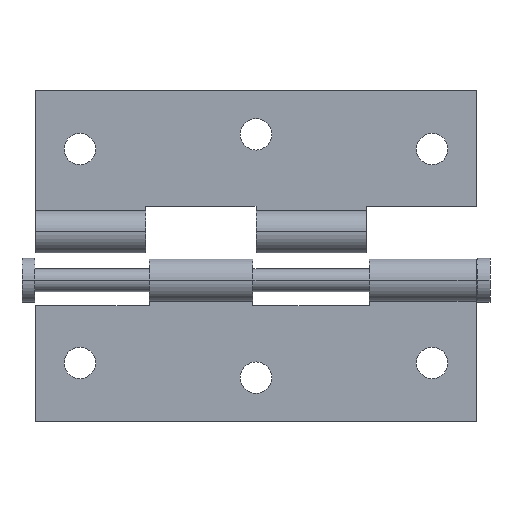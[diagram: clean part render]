
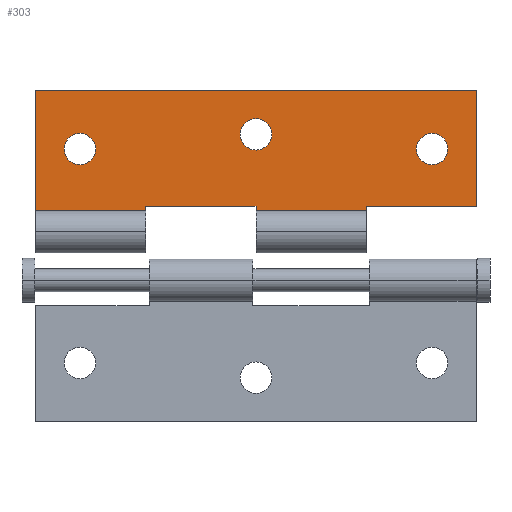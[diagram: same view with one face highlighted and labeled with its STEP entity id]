
A CAD part, top view. The second image highlights one B-rep face of the part: STEP entity #303.
In plain terms, the highlighted planar face has unit normal (0, 0, 1).
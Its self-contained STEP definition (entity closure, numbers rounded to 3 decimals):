
#10 = ORIENTED_EDGE ( 'NONE', *, *, #1867, .T. ) ;
#35 = AXIS2_PLACEMENT_3D ( 'NONE', #1848, #1709, #445 ) ;
#48 = LINE ( 'NONE', #201, #121 ) ;
#58 = EDGE_LOOP ( 'NONE', ( #1331, #2050 ) ) ;
#73 = LINE ( 'NONE', #879, #1916 ) ;
#81 = ORIENTED_EDGE ( 'NONE', *, *, #268, .F. ) ;
#87 = ORIENTED_EDGE ( 'NONE', *, *, #312, .T. ) ;
#109 = DIRECTION ( 'NONE',  ( 0., 1., 0. ) ) ;
#121 = VECTOR ( 'NONE', #361, 1000. ) ;
#192 = EDGE_CURVE ( 'NONE', #705, #1397, #669, .T. ) ;
#198 = CARTESIAN_POINT ( 'NONE',  ( 30.5, 17., 1.2 ) ) ;
#201 = CARTESIAN_POINT ( 'NONE',  ( -35., 7.031, 1.2 ) ) ;
#208 = PLANE ( 'NONE',  #227 ) ;
#210 = ORIENTED_EDGE ( 'NONE', *, *, #1632, .T. ) ;
#216 = EDGE_CURVE ( 'NONE', #262, #1350, #497, .T. ) ;
#227 = AXIS2_PLACEMENT_3D ( 'NONE', #1318, #372, #570 ) ;
#241 = LINE ( 'NONE', #1344, #688 ) ;
#246 = DIRECTION ( 'NONE',  ( 0., 0., 1. ) ) ;
#259 = VERTEX_POINT ( 'NONE', #1523 ) ;
#260 = CARTESIAN_POINT ( 'NONE',  ( -17.5, 7.031, 1.2 ) ) ;
#262 = VERTEX_POINT ( 'NONE', #1213 ) ;
#268 = EDGE_CURVE ( 'NONE', #681, #1469, #73, .T. ) ;
#279 = DIRECTION ( 'NONE',  ( 0., 0., 1. ) ) ;
#290 = CARTESIAN_POINT ( 'NONE',  ( -35., 7.031, 1.2 ) ) ;
#296 = CIRCLE ( 'NONE', #1347, 2.5 ) ;
#298 = FACE_BOUND ( 'NONE', #905, .T. ) ;
#303 = ADVANCED_FACE ( 'NONE', ( #1147, #298, #1721, #1814 ), #208, .F. ) ;
#312 = EDGE_CURVE ( 'NONE', #1131, #1350, #1483, .T. ) ;
#332 = AXIS2_PLACEMENT_3D ( 'NONE', #587, #279, #1066 ) ;
#337 = EDGE_CURVE ( 'NONE', #488, #547, #568, .T. ) ;
#338 = ORIENTED_EDGE ( 'NONE', *, *, #216, .F. ) ;
#353 = DIRECTION ( 'NONE',  ( 0., 0., 1. ) ) ;
#360 = ORIENTED_EDGE ( 'NONE', *, *, #192, .F. ) ;
#361 = DIRECTION ( 'NONE',  ( 0., 1., 0. ) ) ;
#369 = CIRCLE ( 'NONE', #35, 2.5 ) ;
#372 = DIRECTION ( 'NONE',  ( 0., 0., -1. ) ) ;
#396 = DIRECTION ( 'NONE',  ( -1., 0., 0. ) ) ;
#414 = VERTEX_POINT ( 'NONE', #1599 ) ;
#445 = DIRECTION ( 'NONE',  ( -1., 0., 0. ) ) ;
#464 = DIRECTION ( 'NONE',  ( -1., 0., 0. ) ) ;
#488 = VERTEX_POINT ( 'NONE', #198 ) ;
#491 = ORIENTED_EDGE ( 'NONE', *, *, #1024, .F. ) ;
#497 = LINE ( 'NONE', #1710, #1564 ) ;
#506 = VERTEX_POINT ( 'NONE', #1939 ) ;
#547 = VERTEX_POINT ( 'NONE', #976 ) ;
#563 = EDGE_CURVE ( 'NONE', #414, #2000, #1594, .T. ) ;
#568 = CIRCLE ( 'NONE', #1371, 2.5 ) ;
#570 = DIRECTION ( 'NONE',  ( 0., -1., 0. ) ) ;
#587 = CARTESIAN_POINT ( 'NONE',  ( -28., 17., 1.2 ) ) ;
#602 = CARTESIAN_POINT ( 'NONE',  ( -30.5, 17., 1.2 ) ) ;
#630 = CARTESIAN_POINT ( 'NONE',  ( 35., 7.931, 1.2 ) ) ;
#669 = CIRCLE ( 'NONE', #1196, 2.5 ) ;
#679 = EDGE_CURVE ( 'NONE', #262, #844, #1641, .T. ) ;
#681 = VERTEX_POINT ( 'NONE', #260 ) ;
#688 = VECTOR ( 'NONE', #1487, 1000. ) ;
#689 = DIRECTION ( 'NONE',  ( 1., 0., 0. ) ) ;
#705 = VERTEX_POINT ( 'NONE', #721 ) ;
#714 = DIRECTION ( 'NONE',  ( 0., 0., 1. ) ) ;
#721 = CARTESIAN_POINT ( 'NONE',  ( -25.5, 17., 1.2 ) ) ;
#769 = CARTESIAN_POINT ( 'NONE',  ( 17.5, 7.931, 1.2 ) ) ;
#795 = EDGE_CURVE ( 'NONE', #906, #414, #1412, .T. ) ;
#814 = VECTOR ( 'NONE', #1976, 1000. ) ;
#844 = VERTEX_POINT ( 'NONE', #769 ) ;
#854 = AXIS2_PLACEMENT_3D ( 'NONE', #1673, #246, #1668 ) ;
#855 = CARTESIAN_POINT ( 'NONE',  ( 17.5, 7.031, 1.2 ) ) ;
#864 = CARTESIAN_POINT ( 'NONE',  ( 28., 17., 1.2 ) ) ;
#865 = CARTESIAN_POINT ( 'NONE',  ( 0., 7.931, 1.2 ) ) ;
#879 = CARTESIAN_POINT ( 'NONE',  ( 35., 7.031, 1.2 ) ) ;
#905 = EDGE_LOOP ( 'NONE', ( #955, #1419 ) ) ;
#906 = VERTEX_POINT ( 'NONE', #630 ) ;
#923 = CARTESIAN_POINT ( 'NONE',  ( 0., 7.031, 1.2 ) ) ;
#955 = ORIENTED_EDGE ( 'NONE', *, *, #337, .F. ) ;
#967 = DIRECTION ( 'NONE',  ( 0., 0., 1. ) ) ;
#976 = CARTESIAN_POINT ( 'NONE',  ( 25.5, 17., 1.2 ) ) ;
#1024 = EDGE_CURVE ( 'NONE', #1469, #2000, #48, .T. ) ;
#1031 = EDGE_LOOP ( 'NONE', ( #1757, #87, #338, #2020, #210, #1230, #1517, #491, #81, #10 ) ) ;
#1066 = DIRECTION ( 'NONE',  ( -1., 0., 0. ) ) ;
#1069 = CARTESIAN_POINT ( 'NONE',  ( -35., 26.35, 1.2 ) ) ;
#1091 = VECTOR ( 'NONE', #689, 1000. ) ;
#1113 = CIRCLE ( 'NONE', #332, 2.5 ) ;
#1119 = VECTOR ( 'NONE', #1813, 1000. ) ;
#1127 = EDGE_CURVE ( 'NONE', #506, #1131, #1268, .T. ) ;
#1131 = VERTEX_POINT ( 'NONE', #865 ) ;
#1147 = FACE_BOUND ( 'NONE', #58, .T. ) ;
#1184 = DIRECTION ( 'NONE',  ( 1., 0., 0. ) ) ;
#1193 = EDGE_CURVE ( 'NONE', #259, #1281, #1590, .T. ) ;
#1196 = AXIS2_PLACEMENT_3D ( 'NONE', #1940, #353, #396 ) ;
#1213 = CARTESIAN_POINT ( 'NONE',  ( 17.5, 7.031, 1.2 ) ) ;
#1218 = VECTOR ( 'NONE', #1330, 1000. ) ;
#1228 = EDGE_CURVE ( 'NONE', #1397, #705, #1113, .T. ) ;
#1230 = ORIENTED_EDGE ( 'NONE', *, *, #795, .T. ) ;
#1268 = LINE ( 'NONE', #1821, #1119 ) ;
#1281 = VERTEX_POINT ( 'NONE', #1840 ) ;
#1318 = CARTESIAN_POINT ( 'NONE',  ( 35., 7.031, 1.2 ) ) ;
#1330 = DIRECTION ( 'NONE',  ( -1., 0., 0. ) ) ;
#1331 = ORIENTED_EDGE ( 'NONE', *, *, #1193, .F. ) ;
#1344 = CARTESIAN_POINT ( 'NONE',  ( -17.5, 7.031, 1.2 ) ) ;
#1347 = AXIS2_PLACEMENT_3D ( 'NONE', #864, #714, #1184 ) ;
#1350 = VERTEX_POINT ( 'NONE', #1568 ) ;
#1358 = DIRECTION ( 'NONE',  ( 0., 1., 0. ) ) ;
#1371 = AXIS2_PLACEMENT_3D ( 'NONE', #1738, #967, #1591 ) ;
#1397 = VERTEX_POINT ( 'NONE', #602 ) ;
#1412 = LINE ( 'NONE', #1519, #1934 ) ;
#1419 = ORIENTED_EDGE ( 'NONE', *, *, #1770, .F. ) ;
#1469 = VERTEX_POINT ( 'NONE', #290 ) ;
#1483 = LINE ( 'NONE', #923, #814 ) ;
#1487 = DIRECTION ( 'NONE',  ( 0., 1., 0. ) ) ;
#1517 = ORIENTED_EDGE ( 'NONE', *, *, #563, .T. ) ;
#1519 = CARTESIAN_POINT ( 'NONE',  ( 35., 7.031, 1.2 ) ) ;
#1523 = CARTESIAN_POINT ( 'NONE',  ( 2.5, 19.35, 1.2 ) ) ;
#1564 = VECTOR ( 'NONE', #464, 1000. ) ;
#1568 = CARTESIAN_POINT ( 'NONE',  ( 0., 7.031, 1.2 ) ) ;
#1590 = CIRCLE ( 'NONE', #854, 2.5 ) ;
#1591 = DIRECTION ( 'NONE',  ( 1., 0., 0. ) ) ;
#1594 = LINE ( 'NONE', #1955, #1218 ) ;
#1596 = CARTESIAN_POINT ( 'NONE',  ( 35., 7.931, 1.2 ) ) ;
#1599 = CARTESIAN_POINT ( 'NONE',  ( 35., 26.35, 1.2 ) ) ;
#1618 = VECTOR ( 'NONE', #1358, 1000. ) ;
#1632 = EDGE_CURVE ( 'NONE', #844, #906, #1665, .T. ) ;
#1637 = DIRECTION ( 'NONE',  ( -1., 0., 0. ) ) ;
#1641 = LINE ( 'NONE', #855, #1618 ) ;
#1657 = ORIENTED_EDGE ( 'NONE', *, *, #1228, .F. ) ;
#1665 = LINE ( 'NONE', #1596, #1091 ) ;
#1668 = DIRECTION ( 'NONE',  ( -1., 0., 0. ) ) ;
#1673 = CARTESIAN_POINT ( 'NONE',  ( 0., 19.35, 1.2 ) ) ;
#1709 = DIRECTION ( 'NONE',  ( 0., 0., 1. ) ) ;
#1710 = CARTESIAN_POINT ( 'NONE',  ( 35., 7.031, 1.2 ) ) ;
#1721 = FACE_BOUND ( 'NONE', #1800, .T. ) ;
#1738 = CARTESIAN_POINT ( 'NONE',  ( 28., 17., 1.2 ) ) ;
#1757 = ORIENTED_EDGE ( 'NONE', *, *, #1127, .T. ) ;
#1770 = EDGE_CURVE ( 'NONE', #547, #488, #296, .T. ) ;
#1800 = EDGE_LOOP ( 'NONE', ( #360, #1657 ) ) ;
#1813 = DIRECTION ( 'NONE',  ( 1., 0., 0. ) ) ;
#1814 = FACE_OUTER_BOUND ( 'NONE', #1031, .T. ) ;
#1821 = CARTESIAN_POINT ( 'NONE',  ( 35., 7.931, 1.2 ) ) ;
#1840 = CARTESIAN_POINT ( 'NONE',  ( -2.5, 19.35, 1.2 ) ) ;
#1848 = CARTESIAN_POINT ( 'NONE',  ( 0., 19.35, 1.2 ) ) ;
#1867 = EDGE_CURVE ( 'NONE', #681, #506, #241, .T. ) ;
#1898 = EDGE_CURVE ( 'NONE', #1281, #259, #369, .T. ) ;
#1916 = VECTOR ( 'NONE', #1637, 1000. ) ;
#1934 = VECTOR ( 'NONE', #109, 1000. ) ;
#1939 = CARTESIAN_POINT ( 'NONE',  ( -17.5, 7.931, 1.2 ) ) ;
#1940 = CARTESIAN_POINT ( 'NONE',  ( -28., 17., 1.2 ) ) ;
#1955 = CARTESIAN_POINT ( 'NONE',  ( 35., 26.35, 1.2 ) ) ;
#1976 = DIRECTION ( 'NONE',  ( 0., -1., 0. ) ) ;
#2000 = VERTEX_POINT ( 'NONE', #1069 ) ;
#2020 = ORIENTED_EDGE ( 'NONE', *, *, #679, .T. ) ;
#2050 = ORIENTED_EDGE ( 'NONE', *, *, #1898, .F. ) ;
